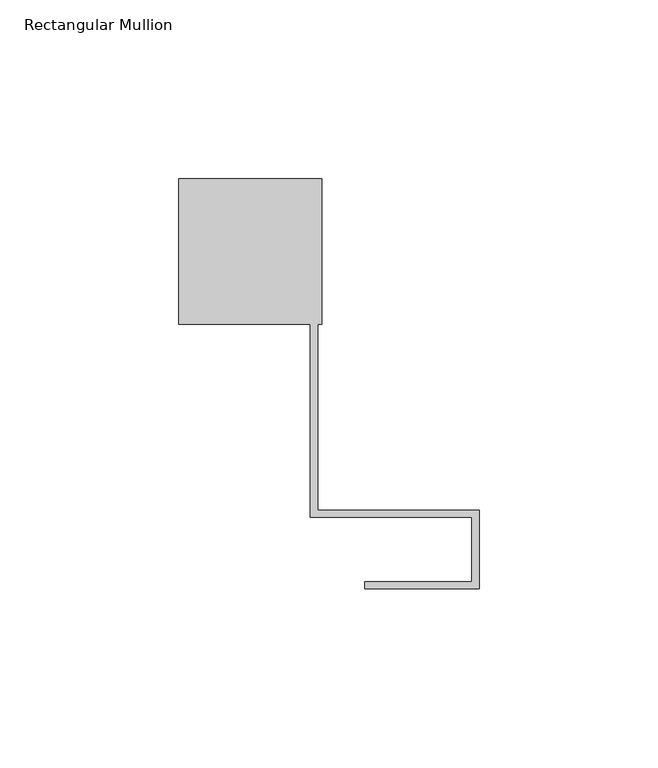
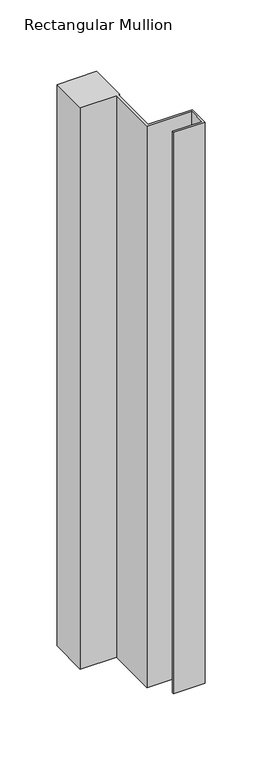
"""IFC4 building model written with IfcOpenShell, lengths in millimetres: member geometry, Rectangular Mullion : Danpal_TP_Bottom-Mullion."""

from ifc_helpers import new_model, si_unit, frame, origin, place, context, project, spatial, polyline, outline, extrude, source, transform, mapped, element, save


def rectangular_mullion_0f3db047(model_context):
    return source(origin(), model_context, "Body", "SweptSolid", [
        extrude(outline(polyline([(-84.0, 104.8981137), (-44.0, 104.8981137), (-44.0, 64.1981137), (-45.1833104, 64.1981137), (-45.1833104, 12.1981137), (0.0, 12.1981137), (0.0, -9.8018863), (-32.0, -9.8018863), (-32.0, -7.8018863), (-2.0, -7.8018863), (-2.0, 10.1981137), (-47.1833104, 10.1981137), (-47.1833104, 64.1981137), (-84.0, 64.1981137), (-84.0, 104.8981137)])), frame((0.0, 0.0, -601.0), z_axis=(0.0, 0.0, 1.0), x_axis=(1.0, 0.0, 0.0)), (0.0, 0.0, 1.0), 601.0),
    ])


if __name__ == "__main__":
    model = new_model("IFC4")
    model_context = context("Model", 3, world=origin())
    ifc_project = project(units=[si_unit("LENGTHUNIT", "METRE", prefix="MILLI")], contexts=[model_context])
    site = spatial("IfcSite", under=ifc_project)
    building = spatial("IfcBuilding", under=site)
    placement = place(None, origin())
    rectangular_mullion_shape = rectangular_mullion_0f3db047(model_context)
    element("IfcMember", 1, ObjectType="Rectangular Mullion : Danpal_TP_Bottom-Mullion", at=placement, inside=building, context=model_context, shape_type="MappedRepresentation", body=[
        mapped(rectangular_mullion_shape, transform((0.0, 0.0, 0.0), x_axis=(1.0, 0.0, 0.0), y_axis=(0.0, 1.0, 0.0), z_axis=(0.0, 0.0, 1.0))),
    ])
    save(model, "model.ifc")
